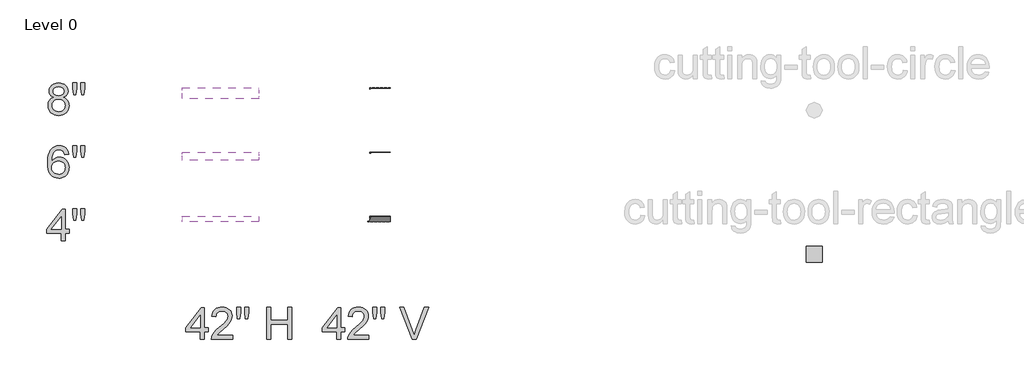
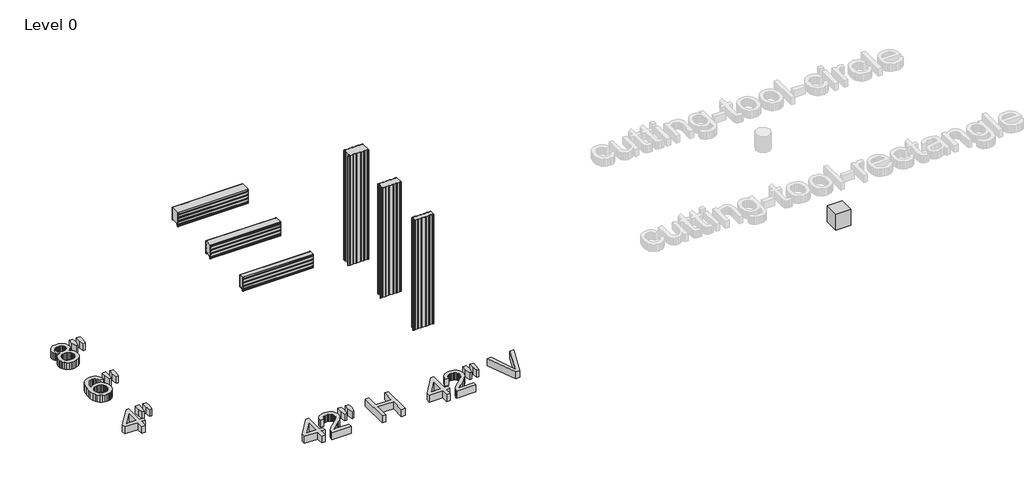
# One storey, part 1 of 3: 6 plates, 6 proxies.
"""IFC4 building model written with IfcOpenShell, lengths in millimetres."""

from ifc_helpers import new_model, si_unit, origin, origin_with_axes, place, context, project, spatial, polyline, outline, extrude, transform, mapped, element, save
from components import kingspan_ks_cutting_tool_rectangle_cutting_tool_rectangle_f435e5aa, plate_778373fd, plate_b218fc5a, plate_716314bc, plate_60b42329, plate_17b216fb, plate_7f17f36e

model = new_model("IFC4")

# Units and contexts
model_context = context("Model", 3, world=origin())
ifc_project = project(units=[si_unit("LENGTHUNIT", "METRE", prefix="MILLI")], contexts=[model_context])

# Site, building, storey
site = spatial("IfcSite", under=ifc_project)
building = spatial("IfcBuilding", under=site)
storey = spatial("IfcBuildingStorey", under=building, Name="Level 0", Elevation=0.0)

# Proxies
placement = place(None, origin())
element("IfcBuildingElementProxy", 1, Name="24\" Arial", ObjectType="24\" Arial", at=placement, inside=storey, context=model_context, shape_type="SweptSolid", body=[
    extrude(outline(polyline([(-11480.8304674, 9099.5393595), (-11480.8304674, 9242.3051848), (-11756.8443964, 9242.3051848), (-11756.8443964, 9318.4469584), (-11461.795024, 9699.1558259), (-11404.6886939, 9699.1558259), (-11404.6886939, 9318.4469584), (-11328.5469203, 9318.4469584), (-11328.5469203, 9242.3051848), (-11404.6886939, 9242.3051848), (-11404.6886939, 9099.5393595), (-11480.8304674, 9099.5393595)]), holes=[polyline([(-11480.8304674, 9318.4469584), (-11480.8304674, 9553.7131414), (-11663.1543235, 9318.4469584), (-11480.8304674, 9318.4469584)])]), origin_with_axes(), (0.0, 0.0, 1.0), 152.4),
    extrude(outline(polyline([(-11243.3335683, 9489.7659488), (-11261.9228685, 9607.3990403), (-11261.9228685, 9708.6735476), (-11185.781095, 9708.6735476), (-11185.781095, 9607.3990403), (-11202.437108, 9489.7659488), (-11243.3335683, 9489.7659488)])), origin_with_axes(), (0.0, 0.0, 1.0), 152.4),
    extrude(outline(polyline([(-11091.4961645, 9489.7659488), (-11109.6393215, 9607.3990403), (-11109.6393215, 9708.6735476), (-11033.497548, 9708.6735476), (-11033.497548, 9607.3990403), (-11051.3432761, 9489.7659488), (-11091.4961645, 9489.7659488)])), origin_with_axes(), (0.0, 0.0, 1.0), 152.4),
])
element("IfcBuildingElementProxy", 2, Name="24\" Arial", ObjectType="24\" Arial", at=placement, inside=storey, context=model_context, shape_type="SweptSolid", body=[
    extrude(outline(polyline([(-8830.6863907, 7226.0033745), (-8830.6863907, 7368.7691999), (-9106.7003197, 7368.7691999), (-9106.7003197, 7444.9109734), (-8811.6509473, 7825.619841), (-8754.5446171, 7825.619841), (-8754.5446171, 7444.9109734), (-8678.4028436, 7444.9109734), (-8678.4028436, 7368.7691999), (-8754.5446171, 7368.7691999), (-8754.5446171, 7226.0033745), (-8830.6863907, 7226.0033745)]), holes=[polyline([(-8830.6863907, 7444.9109734), (-8830.6863907, 7680.1771564), (-9013.0102468, 7444.9109734), (-8830.6863907, 7444.9109734)])]), origin_with_axes(), (0.0, 0.0, 1.0), 152.4),
    extrude(outline(polyline([(-8221.5522025, 7302.1451481), (-8221.5522025, 7226.0033745), (-8621.2965135, 7226.0033745), (-8619.6234765, 7252.8091454), (-8613.1172214, 7278.4995582), (-8594.3420282, 7319.5261437), (-8566.8670426, 7359.3258354), (-8527.1231188, 7400.9844571), (-8471.5411113, 7447.5878326), (-8389.3764045, 7520.5694251), (-8340.0775804, 7574.441217), (-8325.6987567, 7596.4509484), (-8315.4281684, 7618.163251), (-8309.2658154, 7639.5781248), (-8307.2116977, 7660.6955698), (-8309.1496323, 7680.5628844), (-8314.9634359, 7698.8222245), (-8324.6531086, 7715.4735901), (-8338.2186504, 7730.5169813), (-8354.9071946, 7742.9764597), (-8373.9658747, 7751.8760872), (-8395.3946904, 7757.2158637), (-8419.193642, 7758.9957892), (-8444.2659606, 7757.2576896), (-8466.6893039, 7752.0433909), (-8486.463672, 7743.3528931), (-8503.5890648, 7731.1861961), (-8517.4427407, 7715.9522646), (-8527.4019583, 7698.0600632), (-8533.4667175, 7677.5095918), (-8535.6370183, 7654.3008506), (-8611.7787918, 7663.8185723), (-8605.2307108, 7703.1256475), (-8593.3196167, 7737.4693796), (-8576.0455095, 7766.8497685), (-8553.4083892, 7791.2668143), (-8525.9287563, 7810.4602667), (-8494.127111, 7824.1698756), (-8458.0034534, 7832.3956409), (-8417.5577836, 7835.1375627), (-8376.7496224, 7832.0889174), (-8340.4307771, 7822.9429818), (-8308.6012479, 7807.6997556), (-8281.2610347, 7786.359239), (-8259.3024238, 7760.5015225), (-8243.6177018, 7731.7066965), (-8234.2068686, 7699.9747611), (-8231.0699242, 7665.3057163), (-8234.4531768, 7628.8892772), (-8244.6029347, 7593.1048744), (-8262.6159666, 7556.7070247), (-8289.5890412, 7518.4502449), (-8332.5860925, 7472.7763344), (-8398.6710546, 7414.1270923), (-8486.263837, 7340.8852496), (-8520.6168637, 7302.1451481), (-8221.5522025, 7302.1451481)])), origin_with_axes(), (0.0, 0.0, 1.0), 152.4),
    extrude(outline(polyline([(-8126.8211288, 7616.2299638), (-8145.410429, 7733.8630553), (-8145.410429, 7835.1375627), (-8069.2686555, 7835.1375627), (-8069.2686555, 7733.8630553), (-8085.9246684, 7616.2299638), (-8126.8211288, 7616.2299638)])), origin_with_axes(), (0.0, 0.0, 1.0), 152.4),
    extrude(outline(polyline([(-7974.983725, 7616.2299638), (-7993.126882, 7733.8630553), (-7993.126882, 7835.1375627), (-7916.9851084, 7835.1375627), (-7916.9851084, 7733.8630553), (-7934.8308366, 7616.2299638), (-7974.983725, 7616.2299638)])), origin_with_axes(), (0.0, 0.0, 1.0), 152.4),
    extrude(outline(polyline([(-7574.3471276, 7226.0033745), (-7574.3471276, 7835.1375627), (-7498.2053541, 7835.1375627), (-7498.2053541, 7587.6767987), (-7174.6028167, 7587.6767987), (-7174.6028167, 7835.1375627), (-7098.4610431, 7835.1375627), (-7098.4610431, 7226.0033745), (-7174.6028167, 7226.0033745), (-7174.6028167, 7511.5350252), (-7498.2053541, 7511.5350252), (-7498.2053541, 7226.0033745), (-7574.3471276, 7226.0033745)])), origin_with_axes(), (0.0, 0.0, 1.0), 152.4),
])
element("IfcBuildingElementProxy", 3, Name="24\" Arial", ObjectType="24\" Arial", at=placement, inside=storey, context=model_context, shape_type="SweptSolid", body=[
    extrude(outline(polyline([(-6239.8863907, 7226.0033745), (-6239.8863907, 7368.7691999), (-6515.9003197, 7368.7691999), (-6515.9003197, 7444.9109734), (-6220.8509473, 7825.619841), (-6163.7446171, 7825.619841), (-6163.7446171, 7444.9109734), (-6087.6028436, 7444.9109734), (-6087.6028436, 7368.7691999), (-6163.7446171, 7368.7691999), (-6163.7446171, 7226.0033745), (-6239.8863907, 7226.0033745)]), holes=[polyline([(-6239.8863907, 7444.9109734), (-6239.8863907, 7680.1771564), (-6422.2102468, 7444.9109734), (-6239.8863907, 7444.9109734)])]), origin_with_axes(), (0.0, 0.0, 1.0), 152.4),
    extrude(outline(polyline([(-5630.7522025, 7302.1451481), (-5630.7522025, 7226.0033745), (-6030.4965135, 7226.0033745), (-6028.8234765, 7252.8091454), (-6022.3172214, 7278.4995582), (-6003.5420282, 7319.5261437), (-5976.0670426, 7359.3258354), (-5936.3231188, 7400.9844571), (-5880.7411113, 7447.5878326), (-5798.5764045, 7520.5694251), (-5749.2775804, 7574.441217), (-5734.8987567, 7596.4509484), (-5724.6281684, 7618.163251), (-5718.4658154, 7639.5781248), (-5716.4116977, 7660.6955698), (-5718.3496323, 7680.5628844), (-5724.1634359, 7698.8222245), (-5733.8531086, 7715.4735901), (-5747.4186504, 7730.5169813), (-5764.1071946, 7742.9764597), (-5783.1658747, 7751.8760872), (-5804.5946904, 7757.2158637), (-5828.393642, 7758.9957892), (-5853.4659606, 7757.2576896), (-5875.8893039, 7752.0433909), (-5895.663672, 7743.3528931), (-5912.7890648, 7731.1861961), (-5926.6427407, 7715.9522646), (-5936.6019583, 7698.0600632), (-5942.6667175, 7677.5095918), (-5944.8370183, 7654.3008506), (-6020.9787918, 7663.8185723), (-6014.4307108, 7703.1256475), (-6002.5196167, 7737.4693796), (-5985.2455095, 7766.8497685), (-5962.6083892, 7791.2668143), (-5935.1287563, 7810.4602667), (-5903.327111, 7824.1698756), (-5867.2034534, 7832.3956409), (-5826.7577836, 7835.1375627), (-5785.9496224, 7832.0889174), (-5749.6307771, 7822.9429818), (-5717.8012479, 7807.6997556), (-5690.4610347, 7786.359239), (-5668.5024238, 7760.5015225), (-5652.8177018, 7731.7066965), (-5643.4068686, 7699.9747611), (-5640.2699242, 7665.3057163), (-5643.6531768, 7628.8892772), (-5653.8029347, 7593.1048744), (-5671.8159666, 7556.7070247), (-5698.7890412, 7518.4502449), (-5741.7860925, 7472.7763344), (-5807.8710546, 7414.1270923), (-5895.463837, 7340.8852496), (-5929.8168637, 7302.1451481), (-5630.7522025, 7302.1451481)])), origin_with_axes(), (0.0, 0.0, 1.0), 152.4),
    extrude(outline(polyline([(-5536.0211288, 7616.2299638), (-5554.610429, 7733.8630553), (-5554.610429, 7835.1375627), (-5478.4686555, 7835.1375627), (-5478.4686555, 7733.8630553), (-5495.1246684, 7616.2299638), (-5536.0211288, 7616.2299638)])), origin_with_axes(), (0.0, 0.0, 1.0), 152.4),
    extrude(outline(polyline([(-5384.183725, 7616.2299638), (-5402.326882, 7733.8630553), (-5402.326882, 7835.1375627), (-5326.1851084, 7835.1375627), (-5326.1851084, 7733.8630553), (-5344.0308366, 7616.2299638), (-5384.183725, 7616.2299638)])), origin_with_axes(), (0.0, 0.0, 1.0), 152.4),
    extrude(outline(polyline([(-4803.6027019, 7226.0033745), (-5046.0071762, 7835.1375627), (-4964.5116842, 7835.1375627), (-4802.2642723, 7396.2813641), (-4769.3983896, 7297.3862872), (-4736.9786501, 7396.2813641), (-4574.285095, 7835.1375627), (-4492.789603, 7835.1375627), (-4724.9327836, 7226.0033745), (-4803.6027019, 7226.0033745)])), origin_with_axes(), (0.0, 0.0, 1.0), 152.4),
])
element("IfcBuildingElementProxy", 4, Name="24\" Arial", ObjectType="24\" Arial", at=placement, inside=storey, context=model_context, shape_type="SweptSolid", body=[
    extrude(outline(polyline([(-11338.064642, 10741.6722789), (-11414.2064155, 10732.1545572), (-11426.4753537, 10769.8908366), (-11443.0570094, 10795.6556066), (-11459.4248882, 10809.5139299), (-11477.5959291, 10819.4127322), (-11497.5701322, 10825.3520136), (-11519.3474973, 10827.3317741), (-11554.7415249, 10822.7216277), (-11588.0535508, 10808.8911883), (-11616.6624838, 10779.761755), (-11640.0292341, 10739.6646345), (-11649.1612278, 10714.0904048), (-11655.8115499, 10682.9486797), (-11661.6671795, 10603.9627432), (-11631.1249593, 10639.5984316), (-11594.5226272, 10664.7125762), (-11553.9050064, 10679.6026056), (-11511.3169197, 10684.5659488), (-11474.7331769, 10681.1734015), (-11440.9750078, 10670.9957596), (-11410.0424123, 10654.0330232), (-11381.9353904, 10630.2851923), (-11358.5779348, 10601.1650535), (-11341.8940379, 10568.0853939), (-11331.8836997, 10531.0462133), (-11328.5469203, 10490.0475117), (-11330.1177162, 10462.2890393), (-11334.8301038, 10435.5250943), (-11342.6840831, 10409.755677), (-11353.6796542, 10384.9807872), (-11367.4264417, 10362.1252426), (-11383.5340703, 10342.1138609), (-11402.00254, 10324.9466422), (-11422.8318508, 10310.6235865), (-11445.5758596, 10299.3352339), (-11469.7884231, 10291.272125), (-11495.4695413, 10286.4342596), (-11522.6192142, 10284.8216378), (-11568.0096379, 10289.0971768), (-11609.0036921, 10301.923794), (-11645.6013768, 10323.3014892), (-11677.802692, 10353.2302625), (-11704.0554312, 10392.9741862), (-11722.8073878, 10443.7973329), (-11734.0585617, 10505.6997025), (-11737.808953, 10578.681295), (-11733.6449498, 10660.5020997), (-11721.15294, 10730.3328058), (-11700.3329238, 10788.1734133), (-11686.7999133, 10812.5974301), (-11671.1849012, 10834.0239222), (-11639.5923855, 10864.4081333), (-11602.9621695, 10886.1111413), (-11561.2942532, 10899.132946), (-11514.5886365, 10903.4735476), (-11479.5199217, 10900.7873938), (-11447.7786917, 10892.7289321), (-11419.3649463, 10879.2981628), (-11394.2786858, 10860.4950856), (-11373.1984194, 10836.951737), (-11356.8026566, 10809.3001529), (-11345.0913975, 10777.5403336), (-11338.064642, 10741.6722789)]), holes=[polyline([(-11661.6671795, 10491.237227), (-11657.2615153, 10457.4976471), (-11644.0445229, 10425.2823899), (-11623.5219355, 10397.5843327), (-11597.1994865, 10377.3963527), (-11565.4303725, 10365.0716467), (-11528.5677902, 10360.9634113), (-11502.1012741, 10363.0918862), (-11478.3209119, 10369.4773108), (-11457.2267035, 10380.1196852), (-11438.818649, 10395.0190092), (-11423.8867936, 10413.5711308), (-11413.2211826, 10435.1718976), (-11406.8218161, 10459.8213097), (-11404.6886939, 10487.5193669), (-11406.7939321, 10514.1345974), (-11413.1096468, 10537.7662453), (-11423.6358381, 10558.4143105), (-11438.3725058, 10576.078793), (-11456.8363282, 10590.2298977), (-11478.5439835, 10600.3378297), (-11503.4954716, 10606.4025889), (-11531.6907927, 10608.4241753), (-11557.8041121, 10606.4025889), (-11581.8633138, 10600.3378297), (-11603.8683979, 10590.2298977), (-11623.8193643, 10576.078793), (-11640.3777835, 10558.6466767), (-11652.2052257, 10538.6957103), (-11659.301691, 10516.2258937), (-11661.6671795, 10491.237227)])]), origin_with_axes(), (0.0, 0.0, 1.0), 152.4),
    extrude(outline(polyline([(-11243.3335683, 10684.5659488), (-11261.9228685, 10802.1990403), (-11261.9228685, 10903.4735476), (-11185.781095, 10903.4735476), (-11185.781095, 10802.1990403), (-11202.437108, 10684.5659488), (-11243.3335683, 10684.5659488)])), origin_with_axes(), (0.0, 0.0, 1.0), 152.4),
    extrude(outline(polyline([(-11091.4961645, 10684.5659488), (-11109.6393215, 10802.1990403), (-11109.6393215, 10903.4735476), (-11033.497548, 10903.4735476), (-11033.497548, 10802.1990403), (-11051.3432761, 10684.5659488), (-11091.4961645, 10684.5659488)])), origin_with_axes(), (0.0, 0.0, 1.0), 152.4),
])
element("IfcBuildingElementProxy", 5, Name="24\" Arial", ObjectType="24\" Arial", at=placement, inside=storey, context=model_context, shape_type="SweptSolid", body=[
    extrude(outline(polyline([(-11617.3502879, 11821.2374755), (-11658.1166231, 11841.3139197), (-11673.9407649, 11854.029001), (-11686.7255561, 11868.5286551), (-11696.5825325, 11884.6734623), (-11703.62323, 11902.3240029), (-11709.2557879, 11942.1422838), (-11706.1885534, 11973.1957098), (-11696.9868498, 12001.665223), (-11681.6506772, 12027.5508235), (-11660.1800355, 12050.8525113), (-11633.6066309, 12070.1110262), (-11602.9621695, 12083.8671084), (-11568.2466515, 12092.1207576), (-11529.4600766, 12094.8719741), (-11490.4876088, 12092.0556951), (-11455.5118405, 12083.6068582), (-11424.5327718, 12069.5254633), (-11397.5504026, 12049.8115104), (-11375.6893856, 12026.0543848), (-11360.0743734, 11999.8434716), (-11350.7053662, 11971.1787707), (-11347.5823637, 11940.0602822), (-11353.1405645, 11901.5246629), (-11369.8151667, 11868.3055835), (-11382.3675917, 11853.9035232), (-11397.7920635, 11841.2581518), (-11437.2571478, 11821.2374755), (-11412.2313024, 11810.5904538), (-11390.393522, 11797.0899746), (-11371.7438066, 11780.7360377), (-11356.2821562, 11761.5286433), (-11344.1479905, 11739.8953452), (-11335.4807293, 11716.2636974), (-11330.2803726, 11690.6336998), (-11328.5469203, 11663.0053524), (-11331.9859409, 11625.0274121), (-11342.3030025, 11590.2096529), (-11359.4981051, 11558.5520747), (-11383.5712489, 11530.0546775), (-11413.2583612, 11506.5020342), (-11447.2953699, 11489.6787176), (-11485.6822747, 11479.5847276), (-11528.4190758, 11476.2200642), (-11571.1558769, 11479.5986695), (-11609.5427818, 11489.7344855), (-11643.5797904, 11506.627512), (-11673.2669028, 11530.2777491), (-11697.3400465, 11558.9749813), (-11714.5351492, 11591.0089928), (-11724.8522108, 11626.3797837), (-11728.2912313, 11665.087354), (-11726.4880692, 11693.9751265), (-11721.0785828, 11720.4091113), (-11712.0627723, 11744.3893086), (-11699.4406374, 11765.9157182), (-11683.4910179, 11784.5979648), (-11664.4927531, 11800.0456733), (-11642.4458431, 11812.2588435), (-11617.3502879, 11821.2374755)]), holes=[polyline([(-11633.1140144, 11939.9115678), (-11631.4270354, 11922.4562149), (-11626.3660984, 11906.6738991), (-11617.9312035, 11892.5646203), (-11606.1223506, 11880.1283784), (-11591.088254, 11869.9786205), (-11572.9776283, 11862.7287935), (-11551.7904735, 11858.3788972), (-11527.5267894, 11856.9289318), (-11503.8626103, 11858.3696026), (-11483.1355406, 11862.6916149), (-11465.3455803, 11869.8949687), (-11450.4927295, 11879.979664), (-11438.7814704, 11892.1556557), (-11430.4162853, 11905.6328983), (-11425.3971743, 11920.4113919), (-11423.7241372, 11936.4911366), (-11425.4529422, 11953.1982701), (-11430.6393569, 11968.5205008), (-11439.2833815, 11982.4578286), (-11451.3850159, 11995.0102535), (-11466.5724741, 12005.3877303), (-11484.4739702, 12012.8002138), (-11505.0895041, 12017.2477039), (-11528.4190758, 12018.7302005), (-11551.9298932, 12017.2802351), (-11572.6430209, 12012.9303389), (-11590.558459, 12005.6805118), (-11605.6762074, 11995.5307539), (-11617.6802479, 11983.3547623), (-11626.2545626, 11970.0262341), (-11631.3991515, 11955.5451693), (-11633.1140144, 11939.9115678)]), polyline([(-11652.1494578, 11667.7642132), (-11648.9706875, 11638.6347799), (-11639.4343765, 11610.4348115), (-11621.8303092, 11585.8411674), (-11594.44827, 11567.5307067), (-11561.6567445, 11556.154055), (-11527.8242182, 11552.3618378), (-11500.2934647, 11554.3555402), (-11475.9972493, 11560.3366475), (-11454.9355722, 11570.3051598), (-11437.1084334, 11584.2610769), (-11422.9247973, 11601.2935231), (-11412.7936287, 11620.4916229), (-11406.7149276, 11641.8553761), (-11404.6886939, 11665.3847828), (-11406.7799901, 11689.2906228), (-11413.0538789, 11711.0401041), (-11423.5103603, 11730.6332264), (-11438.1494342, 11748.06999), (-11456.4598948, 11762.3837511), (-11477.9305365, 11772.6078662), (-11502.5613593, 11778.7423353), (-11530.352363, 11780.7871583), (-11557.4787993, 11778.7702192), (-11581.4543492, 11772.719402), (-11602.2790127, 11762.6347067), (-11619.9527899, 11748.5161332), (-11634.0388321, 11731.3675038), (-11644.1002908, 11712.1926407), (-11650.137166, 11690.9915438), (-11652.1494578, 11667.7642132)])]), origin_with_axes(), (0.0, 0.0, 1.0), 152.4),
    extrude(outline(polyline([(-11243.3335683, 11875.9643752), (-11261.9228685, 11993.5974667), (-11261.9228685, 12094.8719741), (-11185.781095, 12094.8719741), (-11185.781095, 11993.5974667), (-11202.437108, 11875.9643752), (-11243.3335683, 11875.9643752)])), origin_with_axes(), (0.0, 0.0, 1.0), 152.4),
    extrude(outline(polyline([(-11091.4961645, 11875.9643752), (-11109.6393215, 11993.5974667), (-11109.6393215, 12094.8719741), (-11033.497548, 12094.8719741), (-11033.497548, 11993.5974667), (-11051.3432761, 11875.9643752), (-11091.4961645, 11875.9643752)])), origin_with_axes(), (0.0, 0.0, 1.0), 152.4),
])
kingspan_ks_cutting_tool_rectangle_cutting_tool_rectangle_shape = kingspan_ks_cutting_tool_rectangle_cutting_tool_rectangle_f435e5aa(model_context)
element("IfcBuildingElementProxy", 6, Name="kingspan-ks-cutting-tool-rectangle : cutting-tool-rectangle", ObjectType="kingspan-ks-cutting-tool-rectangle : cutting-tool-rectangle", at=placement, inside=storey, context=model_context, shape_type="MappedRepresentation", body=[
    mapped(kingspan_ks_cutting_tool_rectangle_cutting_tool_rectangle_shape, transform((2838.5300997, 8842.8462335, 0.0), x_axis=(1.0, 0.0, 0.0), y_axis=(0.0, 1.0, 0.0), z_axis=(0.0, 0.0, 1.0))),
])

# Plates
plate_shape = plate_778373fd(model_context)
element("IfcPlate", 7, ObjectType="KIP-42-KRHF-R19-CP-Hz-SL_SL : Hz 4\"", at=placement, inside=storey, context=model_context, shape_type="MappedRepresentation", body=[
    mapped(plate_shape, transform((-8448.7250935, 9562.4222907, 2133.6), x_axis=(1.0, 0.0, 0.0), y_axis=(0.0, 1.0, 0.0), z_axis=(0.0, 0.0, 1.0))),
])
plate_2_shape = plate_b218fc5a(model_context)
element("IfcPlate", 8, ObjectType="KIP-42-KRHF-R19-CP-Hz-SL_SL : Hz 6\"", at=placement, inside=storey, context=model_context, shape_type="MappedRepresentation", body=[
    mapped(plate_2_shape, transform((-8448.7250935, 10781.6222907, 2133.6), x_axis=(1.0, 0.0, 0.0), y_axis=(0.0, 1.0, 0.0), z_axis=(0.0, 0.0, 1.0))),
])
plate_3_shape = plate_716314bc(model_context)
element("IfcPlate", 9, ObjectType="KIP-42-KRHF-R19-CP-Hz-SL_SL : Hz 8\"", at=placement, inside=storey, context=model_context, shape_type="MappedRepresentation", body=[
    mapped(plate_3_shape, transform((-8448.7250935, 11999.4207172, 2133.6), x_axis=(1.0, 0.0, 0.0), y_axis=(0.0, 1.0, 0.0), z_axis=(0.0, 0.0, 1.0))),
])
plate_4_shape = plate_60b42329(model_context)
element("IfcPlate", 10, ObjectType="KIP-42-KRHF-R19-CP-Vt-SL_SL : Vt 4\"", at=placement, inside=storey, context=model_context, shape_type="MappedRepresentation", body=[
    mapped(plate_4_shape, transform((-5415.5413834, 9561.0207172, 0.0), x_axis=(1.0, 0.0, 0.0), y_axis=(0.0, 1.0, 0.0), z_axis=(0.0, 0.0, 1.0))),
])
plate_5_shape = plate_17b216fb(model_context)
element("IfcPlate", 11, ObjectType="KIP-42-KRHF-R19-CP-Vt-SL_SL : Vt 6\"", at=placement, inside=storey, context=model_context, shape_type="MappedRepresentation", body=[
    mapped(plate_5_shape, transform((-5415.5413834, 10780.2207172, 0.0), x_axis=(1.0, 0.0, 0.0), y_axis=(0.0, 1.0, 0.0), z_axis=(0.0, 0.0, 1.0))),
])
plate_6_shape = plate_7f17f36e(model_context)
element("IfcPlate", 12, ObjectType="KIP-42-KRHF-R19-CP-Vt-SL_SL : Vt 8\"", at=placement, inside=storey, context=model_context, shape_type="MappedRepresentation", body=[
    mapped(plate_6_shape, transform((-5415.5413834, 11999.4207172, 0.0), x_axis=(1.0, 0.0, 0.0), y_axis=(0.0, 1.0, 0.0), z_axis=(0.0, 0.0, 1.0))),
])

save(model, "model.ifc")
